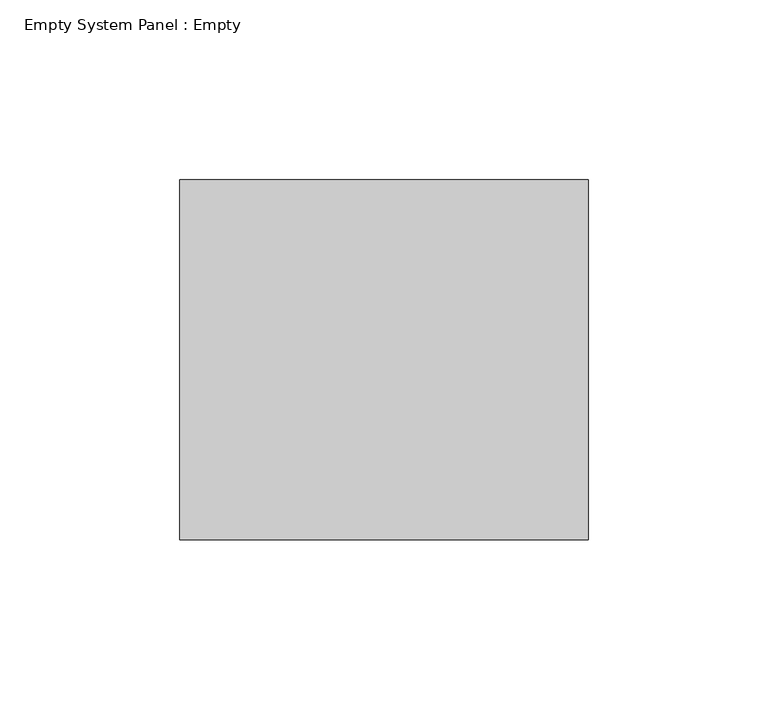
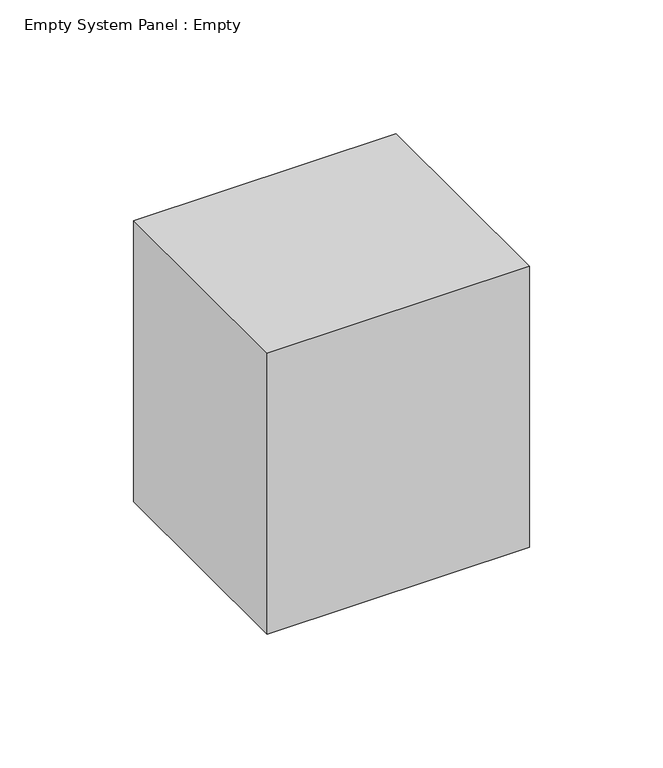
"""IFC4 building model written with IfcOpenShell, lengths in millimetres: plate geometry, Empty System Panel : Empty."""

from ifc_helpers import new_model, si_unit, origin, origin_with_axes, place, context, project, spatial, polyline, outline, extrude, source, transform, mapped, element, save


def empty_system_panel_empty_53187d3d(model_context):
    return source(origin(), model_context, "Body", "SweptSolid", [
        extrude(outline(polyline([(56.6878051, 50.0), (-56.6878051, 50.0), (-56.6878051, 150.0), (56.6878051, 150.0), (56.6878051, 50.0)])), origin_with_axes(), (0.0, 0.0, 1.0), 128.37561),
    ])


if __name__ == "__main__":
    model = new_model("IFC4")
    model_context = context("Model", 3, world=origin())
    ifc_project = project(units=[si_unit("LENGTHUNIT", "METRE", prefix="MILLI")], contexts=[model_context])
    site = spatial("IfcSite", under=ifc_project)
    building = spatial("IfcBuilding", under=site)
    placement = place(None, origin())
    empty_system_panel_empty_shape = empty_system_panel_empty_53187d3d(model_context)
    element("IfcPlate", 1, ObjectType="Empty System Panel : Empty", at=placement, inside=building, context=model_context, shape_type="MappedRepresentation", body=[
        mapped(empty_system_panel_empty_shape, transform((0.0, 0.0, 0.0), x_axis=(1.0, 0.0, 0.0), y_axis=(0.0, 1.0, 0.0), z_axis=(0.0, 0.0, 1.0))),
    ])
    save(model, "model.ifc")
